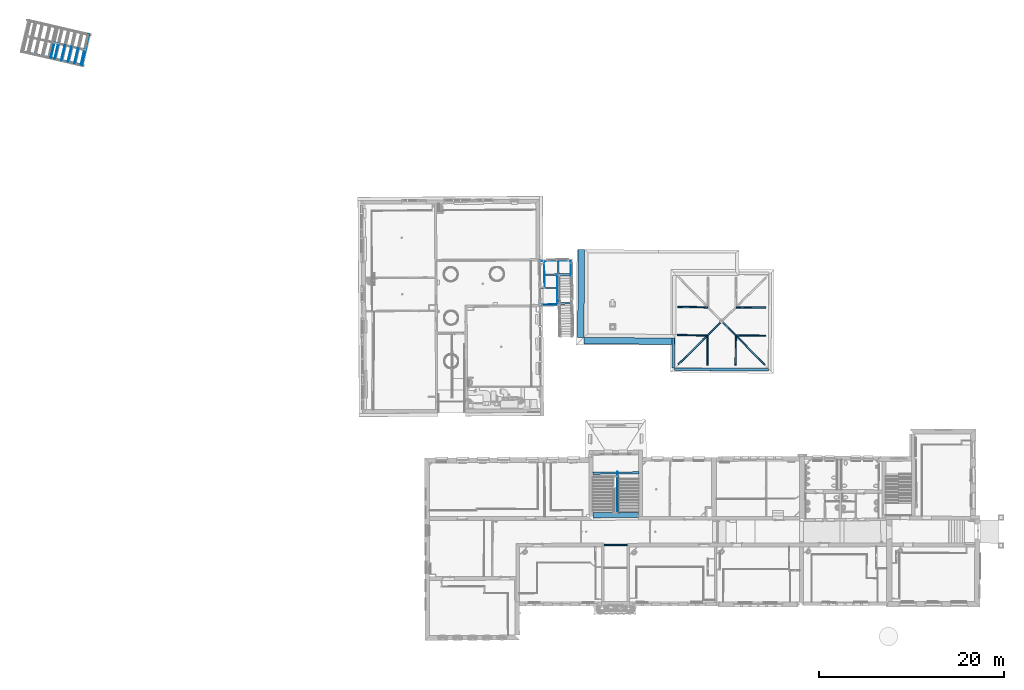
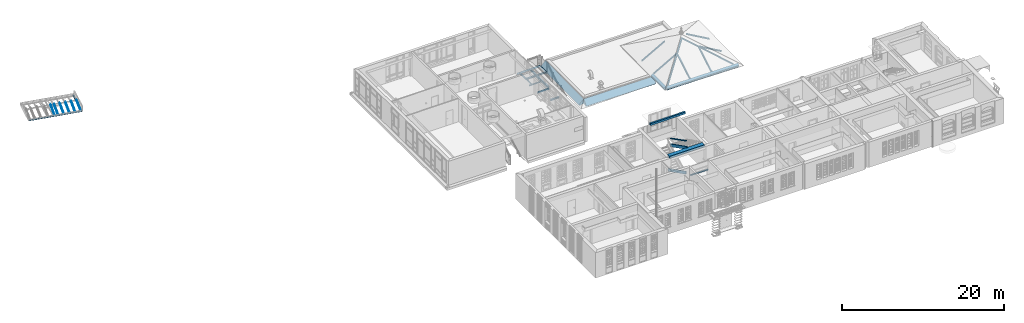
# One storey, part 5 of 158: 37 beams.
"""IFC2X3 building model written with IfcOpenShell, lengths in metres."""

from ifc_helpers import new_model, entity, si_unit, converted_unit, derived_unit, money_unit, direction, frame, frame_2d, origin_with_axes, origin_2d_with_axis, place, context, subcontext, project, spatial, polyline, rectangle, outline, extrude, clip, halfspace, material, type_object, element, save


model = new_model("IFC2X3")

# Units and contexts
model_context = context("Model", 3, precision=1e-05, world=origin_with_axes(), true_north=direction((0.0, 1.0)))
body_context = subcontext(model_context, "Body", "Model", "MODEL_VIEW")
ifc_project = project(units=[si_unit("LENGTHUNIT", "METRE"), si_unit("AREAUNIT", "SQUARE_METRE"), si_unit("VOLUMEUNIT", "CUBIC_METRE"), converted_unit("PLANEANGLEUNIT", "DEGREE", entity("IfcPlaneAngleMeasure", 0.0174532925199), si_unit("PLANEANGLEUNIT", "RADIAN"), dimensions=[0, 0, 0, 0, 0, 0, 0]), money_unit("EUR"), converted_unit("TIMEUNIT", "Year", entity("IfcTimeMeasure", 31556926.0), si_unit("TIMEUNIT", "SECOND"), dimensions=[0, 0, 1, 0, 0, 0, 0]), si_unit("MASSUNIT", "GRAM", prefix="KILO"), si_unit("THERMODYNAMICTEMPERATUREUNIT", "DEGREE_CELSIUS"), si_unit("LUMINOUSINTENSITYUNIT", "LUMEN"), si_unit("ENERGYUNIT", "JOULE", prefix="MEGA"), derived_unit("THERMALCONDUCTANCEUNIT", [(si_unit("POWERUNIT", "WATT"), 1), (si_unit("LENGTHUNIT", "METRE"), -1), (si_unit("THERMODYNAMICTEMPERATUREUNIT", "KELVIN"), -1)]), derived_unit("SPECIFICHEATCAPACITYUNIT", [(si_unit("ENERGYUNIT", "JOULE"), 1), (si_unit("MASSUNIT", "GRAM", prefix="KILO"), -1), (si_unit("THERMODYNAMICTEMPERATUREUNIT", "KELVIN"), -1)]), derived_unit("MASSDENSITYUNIT", [(si_unit("MASSUNIT", "GRAM", prefix="KILO"), 1), (si_unit("VOLUMEUNIT", "CUBIC_METRE"), -1)])], contexts=[model_context])

# Site, building, storey
site_placement = place(None, origin_with_axes())
site = spatial("IfcSite", under=ifc_project, at=site_placement, Name="Gelände", CompositionType="ELEMENT")
building_placement = place(site_placement, origin_with_axes())
building = spatial("IfcBuilding", under=site, at=building_placement, Name="Gebäude", CompositionType="ELEMENT")
storey_placement = place(building_placement, origin_with_axes())
storey = spatial("IfcBuildingStorey", under=building, at=storey_placement, Name="ERDGESCHOSS", CompositionType="ELEMENT", Elevation=0.0)

# Beams
ifc_material_1 = material(Name="Stahl verzinkt")
beam_type_1 = type_object("IfcBeamType", Name="HEB200 200 x 200", PredefinedType="LINTEL")
beam_1_placement = place(storey_placement, frame((-13.5839410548, 46.0040171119, 1.18054436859), z_axis=(0.0, 0.0, 1.0), x_axis=(0.99989609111, 0.0144155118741, 0.0)))
element("IfcBeam", 1, at=beam_1_placement, inside=storey, type_object=beam_type_1, material=ifc_material_1, Name="Unterzug-003", ObjectType="LINTEL", context=body_context, shape_type="SweptSolid", body=[
    extrude(outline(polyline([(0.0, 0.1), (-0.1, 0.1), (-0.1, 0.085), (-0.0045, 0.085), (-0.0045, -0.085), (-0.1, -0.085), (-0.1, -0.1), (0.1, -0.1), (0.1, -0.085), (0.0045, -0.085), (0.0045, 0.085), (0.1, 0.085), (0.1, 0.1), (0.0, 0.1)])), frame((0.0, 1.37754450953, 0.0), z_axis=(0.0, -1.0, 0.0), x_axis=(1.0, 0.0, 0.0)), (0.0, 0.0, 1.0), 1.37754450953),
])
beam_2_placement = place(storey_placement, frame((-15.0966435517, 45.8666600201, 1.18054436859), z_axis=(0.0, 0.0, 1.0), x_axis=(0.0114684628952, -0.999934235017, 0.0)))
element("IfcBeam", 2, at=beam_2_placement, inside=storey, type_object=beam_type_1, material=ifc_material_1, Name="Unterzug-003", ObjectType="LINTEL", context=body_context, shape_type="SweptSolid", body=[
    extrude(outline(polyline([(0.0, 0.1), (-0.1, 0.1), (-0.1, 0.085), (-0.0045, 0.085), (-0.0045, -0.085), (-0.1, -0.085), (-0.1, -0.1), (0.1, -0.1), (0.1, -0.085), (0.0045, -0.085), (0.0045, 0.085), (0.1, 0.085), (0.1, 0.1), (0.0, 0.1)])), frame((0.0, 2.86299160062, 0.0), z_axis=(0.0, -1.0, 0.0), x_axis=(1.0, 0.0, 0.0)), (0.0, 0.0, 1.0), 2.86299160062),
])
beam_3_placement = place(storey_placement, frame((-13.5387914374, 42.8723263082, 1.18054436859), z_axis=(0.0, 0.0, 1.0), x_axis=(0.99989609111, 0.0144155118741, 0.0)))
element("IfcBeam", 3, at=beam_3_placement, inside=storey, type_object=beam_type_1, material=ifc_material_1, Name="Unterzug-003", ObjectType="LINTEL", context=body_context, shape_type="SweptSolid", body=[
    extrude(outline(polyline([(0.0, 0.1), (-0.1, 0.1), (-0.1, 0.085), (-0.0045, 0.085), (-0.0045, -0.085), (-0.1, -0.085), (-0.1, -0.1), (0.1, -0.1), (0.1, -0.085), (0.0045, -0.085), (0.0045, 0.085), (0.1, 0.085), (0.1, 0.1), (0.0, 0.1)])), frame((0.0, 2.89177181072, 0.0), z_axis=(0.0, -1.0, 0.0), x_axis=(1.0, 0.0, 0.0)), (0.0, 0.0, 1.0), 2.89177181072),
])
beam_4_placement = place(storey_placement, frame((-13.4188583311, 42.7554936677, -0.680014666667), z_axis=(0.0, 0.0, 1.0), x_axis=(0.0322854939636, -0.999478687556, 0.0)))
element("IfcBeam", 4, at=beam_4_placement, inside=storey, type_object=beam_type_1, material=ifc_material_1, Name="Unterzug-003", ObjectType="LINTEL", context=body_context, shape_type="SweptSolid", body=[
    extrude(outline(polyline([(0.0, 0.1), (-0.1, 0.1), (-0.1, 0.085), (-0.0045, 0.085), (-0.0045, -0.085), (-0.1, -0.085), (-0.1, -0.1), (0.1, -0.1), (0.1, -0.085), (0.0045, -0.085), (0.0045, 0.085), (0.1, 0.085), (0.1, 0.1), (0.0, 0.1)])), frame((0.0, 1.28388078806, 0.0), z_axis=(0.0, -1.0, 0.0), x_axis=(1.0, 0.0, 0.0)), (0.0, 0.0, 1.0), 1.28388078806),
])
ifc_material_2 = material(Name="56_Metall, Stahl verzinkt")
beam_type_2 = type_object("IfcBeamType", Name="56_Metall, Stahl verzinkt 20 x 267", PredefinedType="LINTEL")
beam_5_placement = place(storey_placement, frame((-15.3598213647, 42.6179727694, 1.18134876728), z_axis=(0.0, 0.0, 1.0), x_axis=(0.014281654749, -0.999898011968, 0.0)))
element("IfcBeam", 5, at=beam_5_placement, inside=storey, type_object=beam_type_2, material=ifc_material_2, Name="Unterzug-004", ObjectType="LINTEL", context=body_context, shape_type="SweptSolid", body=[
    extrude(rectangle(XDim=0.26730286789, YDim=0.02, at=frame_2d((0.0, -0.01), x_axis=(1.0, 0.0))), frame((0.0, 0.0, 0.0), z_axis=(0.0, 1.0, 0.0), x_axis=(0.0, 0.0, 1.0)), (0.0, 0.0, 1.0), 1.67416167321),
])
beam_6_placement = place(storey_placement, frame((-15.0558837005, 44.472801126, 1.18134866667), z_axis=(0.0, 0.0, 1.0), x_axis=(0.999889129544, 0.0148905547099, 0.0)))
element("IfcBeam", 6, at=beam_6_placement, inside=storey, type_object=beam_type_2, material=ifc_material_2, Name="Unterzug-006", ObjectType="LINTEL", context=body_context, shape_type="SweptSolid", body=[
    extrude(rectangle(XDim=0.267302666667, YDim=0.02, at=frame_2d((0.0, -0.01), x_axis=(1.0, 0.0))), frame((0.0, 0.0, 0.0), z_axis=(0.0, 1.0, 0.0), x_axis=(0.0, 0.0, 1.0)), (0.0, 0.0, 1.0), 2.8836605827),
])
beam_7_placement = place(storey_placement, frame((-13.685830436, 42.6418825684, 1.18134876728), z_axis=(0.0, 0.0, 1.0), x_axis=(0.999899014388, 0.0142112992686, 0.0)))
element("IfcBeam", 7, at=beam_7_placement, inside=storey, type_object=beam_type_2, material=ifc_material_2, Name="Unterzug-007", ObjectType="LINTEL", context=body_context, shape_type="SweptSolid", body=[
    extrude(rectangle(XDim=0.26730286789, YDim=0.02, at=frame_2d((0.0, 0.01), x_axis=(1.0, 0.0))), frame((0.0, 0.0, 0.0), z_axis=(0.0, 1.0, 0.0), x_axis=(0.0, 0.0, 1.0)), (0.0, 0.0, 1.0), 3.14035998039),
])
beam_type_3 = type_object("IfcBeamType", Name="56_Metall, Stahl verzinkt 20 x 291", PredefinedType="LINTEL")
beam_8_placement = place(storey_placement, frame((-15.5208699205, 47.3490064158, 1.19296233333), z_axis=(0.0, 0.0, 1.0), x_axis=(0.016904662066, -0.999857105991, 0.0)))
element("IfcBeam", 8, at=beam_8_placement, inside=storey, type_object=beam_type_3, material=ifc_material_2, Name="Unterzug-005", ObjectType="LINTEL", context=body_context, shape_type="SweptSolid", body=[
    extrude(rectangle(XDim=0.29053, YDim=0.02, at=frame_2d((0.0, -0.01), x_axis=(1.0, 0.0))), frame((0.0, 0.0, 0.0), z_axis=(0.0, 1.0, 0.0), x_axis=(0.0, 0.0, 1.0)), (0.0, 0.0, 1.0), 3.28352654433),
])
beam_9_placement = place(storey_placement, frame((-12.2378125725, 45.7545889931, 1.19296233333), z_axis=(0.0, 0.0, 1.0), x_axis=(1.0, 0.0, 0.0)))
element("IfcBeam", 9, at=beam_9_placement, inside=storey, type_object=beam_type_3, material=ifc_material_2, Name="Unterzug-006", ObjectType="LINTEL", context=body_context, shape_type="SweptSolid", body=[
    extrude(rectangle(XDim=0.29053, YDim=0.02, at=frame_2d((0.0, 0.01), x_axis=(1.0, 0.0))), frame((0.0, 0.0, 0.0), z_axis=(0.0, 1.0, 0.0), x_axis=(0.0, 0.0, 1.0)), (0.0, 0.0, 1.0), 1.64992432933),
])
ifc_material_3 = material(Name="47_Holz, Bauholz")
beam_type_4 = type_object("IfcBeamType", Name="47_Holz, Bauholz 154 x 160", PredefinedType="LINTEL")
beam_10_placement = place(storey_placement, frame((8.89462559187, 42.3815478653, 1.07501837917), z_axis=(0.0, 0.0, 1.0), x_axis=(0.00891914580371, 0.999960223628, 0.0)))
element("IfcBeam", 10, at=beam_10_placement, inside=storey, type_object=beam_type_4, material=ifc_material_3, Name="Unterzug-010", ObjectType="LINTEL", context=body_context, shape_type="Clipping", body=[
    clip(clip(extrude(rectangle(XDim=0.16039239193, YDim=0.154044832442, at=frame_2d((-0.0801961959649, -0.0770224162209), x_axis=(1.0, 0.0))), frame((0.0, -0.112396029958, -0.0641183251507), z_axis=(0.0, 0.868602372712, 0.495509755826), x_axis=(0.0, -0.495509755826, 0.868602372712)), (0.0, 0.0, 1.0), 3.9697436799), halfspace(frame((0.0, 0.0, 0.0), z_axis=(0.0, 1.0, 0.0), x_axis=(0.0, 0.0, 1.0)), True)), halfspace(frame((0.0, 3.2233367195, 0.0), z_axis=(0.0, -1.0, 0.0), x_axis=(0.0, 0.0, -1.0)), True)),
])
beam_11_placement = place(storey_placement, frame((8.87576846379, 39.338001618, 1.07435188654), z_axis=(0.0, 0.0, 1.0), x_axis=(0.00619565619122, 0.999980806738, 0.0)))
element("IfcBeam", 11, at=beam_11_placement, inside=storey, type_object=beam_type_4, material=ifc_material_3, Name="Unterzug-012", ObjectType="LINTEL", context=body_context, shape_type="Clipping", body=[
    clip(clip(extrude(rectangle(XDim=0.16039239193, YDim=0.154044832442, at=frame_2d((-0.0801961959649, -0.0770224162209), x_axis=(1.0, 0.0))), frame((0.0, -0.112142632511, -0.0637828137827), z_axis=(0.0, 0.86923870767, 0.494392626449), x_axis=(0.0, -0.494392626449, 0.86923870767)), (0.0, 0.0, 1.0), 3.91522685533), halfspace(frame((0.0, 0.0, 0.0), z_axis=(0.0, 1.0, 0.0), x_axis=(0.0, 0.0, 1.0)), True)), halfspace(frame((0.0, 3.17898146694, 0.0), z_axis=(0.0, -1.0, 0.0), x_axis=(0.0, 0.0, -1.0)), True)),
])
beam_12_placement = place(storey_placement, frame((4.07727617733, 40.774147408, 3.75739027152), z_axis=(0.0, 0.0, 1.0), x_axis=(-0.710529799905, -0.703667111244, 0.0)))
element("IfcBeam", 12, at=beam_12_placement, inside=storey, type_object=beam_type_4, material=ifc_material_3, Name="Unterzug-013", ObjectType="LINTEL", context=body_context, shape_type="Clipping", body=[
    clip(clip(extrude(rectangle(XDim=0.16039239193, YDim=0.154044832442, at=frame_2d((-0.0801961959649, -0.0770224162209), x_axis=(1.0, 0.0))), frame((0.0, -0.0858458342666, 0.0351000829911), z_axis=(0.0, 0.925617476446, -0.378460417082), x_axis=(0.0, 0.378460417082, 0.925617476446)), (0.0, 0.0, 1.0), 7.32631976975), halfspace(frame((0.0, 0.0, 0.0), z_axis=(0.0, 1.0, 0.0), x_axis=(0.0, 0.0, 1.0)), True)), halfspace(frame((0.0, 6.60967794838, 0.0), z_axis=(0.0, -1.0, 0.0), x_axis=(0.0, 0.0, -1.0)), True)),
])
beam_13_placement = place(storey_placement, frame((5.56994109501, 39.2669249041, 2.90802005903), z_axis=(0.0, 0.0, 1.0), x_axis=(-0.999989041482, 0.00468155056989, 0.0)))
element("IfcBeam", 13, at=beam_13_placement, inside=storey, type_object=beam_type_4, material=ifc_material_3, Name="Unterzug-014", ObjectType="LINTEL", context=body_context, shape_type="Clipping", body=[
    clip(clip(extrude(rectangle(XDim=0.16039239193, YDim=0.154044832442, at=frame_2d((-0.0801961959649, -0.0770224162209), x_axis=(1.0, 0.0))), frame((0.0, -0.11253050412, 0.0642968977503), z_axis=(0.0, 0.868263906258, -0.496102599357), x_axis=(0.0, 0.496102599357, 0.868263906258)), (0.0, 0.0, 1.0), 3.94412724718), halfspace(frame((0.0, 0.0, 0.0), z_axis=(0.0, 1.0, 0.0), x_axis=(0.0, 0.0, 1.0)), True)), halfspace(frame((0.0, 3.19948232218, 0.0), z_axis=(0.0, -1.0, 0.0), x_axis=(0.0, 0.0, -1.0)), True)),
])
beam_14_placement = place(storey_placement, frame((2.52585529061, 39.2718066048, 2.90094903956), z_axis=(0.0, 0.0, 1.0), x_axis=(-0.999974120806, 0.00719428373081, 0.0)))
element("IfcBeam", 14, at=beam_14_placement, inside=storey, type_object=beam_type_4, material=ifc_material_3, Name="Unterzug-015", ObjectType="LINTEL", context=body_context, shape_type="Clipping", body=[
    clip(clip(extrude(rectangle(XDim=0.16039239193, YDim=0.154044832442, at=frame_2d((-0.0801961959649, -0.0770224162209), x_axis=(1.0, 0.0))), frame((0.0, -0.112226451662, 0.0638936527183), z_axis=(0.0, 0.86902843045, -0.494762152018), x_axis=(0.0, 0.494762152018, 0.86902843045)), (0.0, 0.0, 1.0), 3.93026870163), halfspace(frame((0.0, 0.0, 0.0), z_axis=(0.0, 1.0, 0.0), x_axis=(0.0, 0.0, 1.0)), True)), halfspace(frame((0.0, 3.1910623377, 0.0), z_axis=(0.0, -1.0, 0.0), x_axis=(0.0, 0.0, -1.0)), True)),
])
beam_15_placement = place(storey_placement, frame((4.08095420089, 40.8701505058, 3.76028907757), z_axis=(0.0, 0.0, 1.0), x_axis=(-0.70190155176, 0.712273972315, 0.0)))
element("IfcBeam", 15, at=beam_15_placement, inside=storey, type_object=beam_type_4, material=ifc_material_3, Name="Unterzug-015", ObjectType="LINTEL", context=body_context, shape_type="Clipping", body=[
    clip(clip(extrude(rectangle(XDim=0.16039239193, YDim=0.154044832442, at=frame_2d((-0.0801961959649, -0.0770224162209), x_axis=(1.0, 0.0))), frame((0.0, -0.0855648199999, 0.0348516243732), z_axis=(0.0, 0.926123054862, -0.37722153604), x_axis=(0.0, 0.37722153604, 0.926123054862)), (0.0, 0.0, 1.0), 7.35853450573), halfspace(frame((0.0, 0.0, 0.0), z_axis=(0.0, 1.0, 0.0), x_axis=(0.0, 0.0, 1.0)), True)), halfspace(frame((0.0, 6.64377881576, 0.0), z_axis=(0.0, -1.0, 0.0), x_axis=(0.0, 0.0, -1.0)), True)),
])
beam_16_placement = place(storey_placement, frame((2.55813733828, 39.3762329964, 2.90610068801), z_axis=(0.0, 0.0, 1.0), x_axis=(0.0093724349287, 0.999956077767, 0.0)))
element("IfcBeam", 16, at=beam_16_placement, inside=storey, type_object=beam_type_4, material=ifc_material_3, Name="Unterzug-016", ObjectType="LINTEL", context=body_context, shape_type="Clipping", body=[
    clip(clip(extrude(rectangle(XDim=0.16039239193, YDim=0.154044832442, at=frame_2d((-0.0801961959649, -0.0770224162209), x_axis=(1.0, 0.0))), frame((0.0, -0.112877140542, 0.064758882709), z_axis=(0.0, 0.867388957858, -0.497630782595), x_axis=(0.0, 0.497630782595, 0.867388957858)), (0.0, 0.0, 1.0), 3.99021152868), halfspace(frame((0.0, 0.0, 0.0), z_axis=(0.0, 1.0, 0.0), x_axis=(0.0, 0.0, 1.0)), True)), halfspace(frame((0.0, 3.23531113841, 0.0), z_axis=(0.0, -1.0, 0.0), x_axis=(0.0, 0.0, -1.0)), True)),
])
beam_17_placement = place(storey_placement, frame((2.60185949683, 42.4161424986, 2.91707397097), z_axis=(0.0, 0.0, 1.0), x_axis=(0.0121838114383, 0.999925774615, 0.0)))
element("IfcBeam", 17, at=beam_17_placement, inside=storey, type_object=beam_type_4, material=ifc_material_3, Name="Unterzug-017", ObjectType="LINTEL", context=body_context, shape_type="Clipping", body=[
    clip(clip(extrude(rectangle(XDim=0.16039239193, YDim=0.154044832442, at=frame_2d((-0.0801961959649, -0.0770224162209), x_axis=(1.0, 0.0))), frame((0.0, -0.112465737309, 0.0642108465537), z_axis=(0.0, 0.868426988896, -0.495817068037), x_axis=(0.0, 0.495817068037, 0.868426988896)), (0.0, 0.0, 1.0), 4.00204552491), halfspace(frame((0.0, 0.0, 0.0), z_axis=(0.0, 1.0, 0.0), x_axis=(0.0, 0.0, 1.0)), True)), halfspace(frame((0.0, 3.25055287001, 0.0), z_axis=(0.0, -1.0, 0.0), x_axis=(0.0, 0.0, -1.0)), True)),
])
ifc_material_4 = material(Name="05_ALLGEMEIN - TRAGENDE BAUTEILE")
beam_type_5 = type_object("IfcBeamType", Name="sims kantine 289 x 434", PredefinedType="LINTEL")
beam_18_placement = place(storey_placement, frame((-0.97514614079, 39.0078292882, 0.825955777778), z_axis=(0.0, 0.0, 1.0), x_axis=(-0.999988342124, 0.00482862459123, 0.0)))
element("IfcBeam", 18, at=beam_18_placement, inside=storey, type_object=beam_type_5, material=ifc_material_4, Name="Unterzug-006", ObjectType="LINTEL", context=body_context, shape_type="SweptSolid", body=[
    extrude(outline(polyline([(0.0, 0.434190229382), (0.0, 0.0), (0.26806092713, 0.0), (0.271404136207, 0.111285), (0.288909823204, 0.116581), (0.288149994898, 0.268944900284), (0.0, 0.434190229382)])), frame((0.0, 3.22323823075, 0.0), z_axis=(0.0, -1.0, 0.0), x_axis=(1.0, 0.0, 0.0)), (0.0, 0.0, 1.0), 3.22323823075),
])
beam_19_placement = place(storey_placement, frame((-0.990709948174, 35.7846286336, 0.825955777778), z_axis=(0.0, 0.0, 1.0), x_axis=(-0.00713960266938, -0.999974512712, 0.0)))
element("IfcBeam", 19, at=beam_19_placement, inside=storey, type_object=beam_type_5, material=ifc_material_4, Name="Unterzug-006", ObjectType="LINTEL", context=body_context, shape_type="SweptSolid", body=[
    extrude(outline(polyline([(0.0, 0.434190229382), (0.0, 0.0), (0.26806092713, 0.0), (0.271404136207, 0.111285), (0.288909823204, 0.116581), (0.288149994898, 0.268944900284), (0.0, 0.434190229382)])), frame((0.0, 10.17225402, 0.0), z_axis=(0.0, -1.0, 0.0), x_axis=(1.0, 0.0, 0.0)), (0.0, 0.0, 1.0), 10.17225402),
])
beam_type_6 = type_object("IfcBeamType", Name="U200 75 x 200", PredefinedType="LINTEL")
beam_20_placement = place(storey_placement, frame((-15.2465711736, 42.6770907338, 1.19929361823), z_axis=(0.0, 0.0, 1.0), x_axis=(0.00788036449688, -0.999968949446, 0.0)))
element("IfcBeam", 20, at=beam_20_placement, inside=storey, type_object=beam_type_6, material=ifc_material_1, Name="Unterzug-007", ObjectType="LINTEL", context=body_context, shape_type="Clipping", body=[
    clip(clip(extrude(outline(polyline([(-0.0375, -0.1), (0.0375, -0.1), (0.0375, -0.0885), (-0.029, -0.0885), (-0.029, 0.0885), (0.0375, 0.0885), (0.0375, 0.1), (-0.0375, 0.1), (-0.0375, -0.1)])), frame((0.0, 1.55114241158, 0.00370266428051), z_axis=(0.0, 0.999997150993, 0.00238704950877), x_axis=(-1.0, 0.0, 0.0)), (0.0, 0.0, -1.0), 1.55182199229), halfspace(frame((0.0, 0.0, 0.0), z_axis=(0.0, 1.0, 0.0), x_axis=(0.0, 0.0, 1.0)), True)), halfspace(frame((0.0, 1.55046725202, 0.0), z_axis=(0.0, -1.0, 0.0), x_axis=(0.0, 0.0, -1.0)), True)),
])
beam_21_placement = place(storey_placement, frame((-15.4993129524, 44.4332862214, 1.19872267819), z_axis=(0.0, 0.0, 1.0), x_axis=(0.00788036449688, -0.999968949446, 0.0)))
element("IfcBeam", 21, at=beam_21_placement, inside=storey, type_object=beam_type_6, material=ifc_material_1, Name="Unterzug-007", ObjectType="LINTEL", context=body_context, shape_type="Clipping", body=[
    clip(clip(extrude(outline(polyline([(-0.0375, -0.1), (0.0375, -0.1), (0.0375, -0.0885), (-0.029, -0.0885), (-0.029, 0.0885), (0.0375, 0.0885), (0.0375, 0.1), (-0.0375, 0.1), (-0.0375, -0.1)])), frame((0.0, 1.78944587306, 0.00427150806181), z_axis=(0.0, -0.999997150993, -0.00238704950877), x_axis=(1.0, 0.0, 0.0)), (0.0, 0.0, 1.0), 1.7901261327), halfspace(frame((0.0, 0.0, 0.0), z_axis=(0.0, 1.0, 0.0), x_axis=(0.0, 0.0, 1.0)), True)), halfspace(frame((0.0, 1.7887707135, 0.0), z_axis=(0.0, -1.0, 0.0), x_axis=(0.0, 0.0, -1.0)), True)),
])
ifc_material_5 = material(Name="01_ALLGEMEIN - BAUTEIL")
beam_type_7 = type_object("IfcBeamType", Name="sims kant. 700 x 863", PredefinedType="LINTEL")
beam_22_placement = place(storey_placement, frame((-0.945144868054, 39.0080204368, 0.0831145), z_axis=(0.0, 0.0, 1.0), x_axis=(0.0082428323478, 0.99996602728, 0.0)))
element("IfcBeam", 22, at=beam_22_placement, inside=storey, type_object=beam_type_7, material=ifc_material_5, Name="Unterzug-008", ObjectType="LINTEL", context=body_context, shape_type="SweptSolid", body=[
    extrude(outline(polyline([(0.0, 0.727742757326), (-0.700206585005, 0.0441495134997), (-0.528845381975, -0.13528), (-0.380181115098, 0.0), (0.0, 0.0), (0.0, 0.727742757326)])), frame((0.0, 9.85188916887, 0.0), z_axis=(0.0, -1.0, 0.0), x_axis=(1.0, 0.0, 0.0)), (0.0, 0.0, 1.0), 9.85188916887),
])
beam_23_placement = place(storey_placement, frame((-10.7966993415, 39.0892279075, 0.0831145), z_axis=(0.0, 0.0, 1.0), x_axis=(0.999984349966, -0.00559462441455, 0.0)))
element("IfcBeam", 23, at=beam_23_placement, inside=storey, type_object=beam_type_7, material=ifc_material_5, Name="Unterzug-008", ObjectType="LINTEL", context=body_context, shape_type="SweptSolid", body=[
    extrude(outline(polyline([(0.0, 0.727742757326), (-0.700206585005, 0.0441495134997), (-0.528845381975, -0.13528), (-0.380181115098, 0.0), (0.0, 0.0), (0.0, 0.727742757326)])), frame((0.0, 9.51505866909, 0.0), z_axis=(0.0, -1.0, 0.0), x_axis=(1.0, 0.0, 0.0)), (0.0, 0.0, 1.0), 9.51505866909),
])
beam_type_8 = type_object("IfcBeamType", Name="05_ALLGEMEIN - TRAGENDE BAUTEILE 170 x 390", PredefinedType="LINTEL")
beam_24_placement = place(storey_placement, frame((-7.1159791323, 20.0179742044, 3.7246809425), z_axis=(0.0, 0.0, 1.0), x_axis=(0.999979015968, 0.00647824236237, 0.0)))
element("IfcBeam", 24, at=beam_24_placement, inside=storey, type_object=beam_type_8, material=ifc_material_4, Name="Unterzug-020", ObjectType="LINTEL", context=body_context, shape_type="Clipping", body=[
    clip(clip(extrude(rectangle(XDim=0.389549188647, YDim=0.17, at=origin_2d_with_axis()), frame((0.0, -0.247780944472, 0.124777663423), z_axis=(0.0, 0.893144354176, -0.449770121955), x_axis=(0.0, 0.449770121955, 0.893144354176)), (0.0, 0.0, 1.0), 5.09756852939), halfspace(frame((0.0, 0.0, 0.0), z_axis=(0.0, 1.0, 0.0), x_axis=(0.0, 0.0, 1.0)), True)), halfspace(frame((0.0, 4.05730266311, 0.0), z_axis=(0.0, -1.0, 0.0), x_axis=(0.0, 0.0, -1.0)), True)),
])
beam_type_9 = type_object("IfcBeamType", Name="05_ALLGEMEIN - TRAGENDE BAUTEILE 102 x 390", PredefinedType="LINTEL")
beam_25_placement = place(storey_placement, frame((-7.17762634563, 20.1009591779, -0.0497198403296), z_axis=(0.0, 0.0, 1.0), x_axis=(0.999999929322, -0.000375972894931, 0.0)))
element("IfcBeam", 25, at=beam_25_placement, inside=storey, type_object=beam_type_9, material=ifc_material_4, Name="Unterzug-020", ObjectType="LINTEL", context=body_context, shape_type="Clipping", body=[
    clip(clip(extrude(rectangle(XDim=0.389549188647, YDim=0.101778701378, at=origin_2d_with_axis()), frame((0.0, -0.248490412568, 0.125584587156), z_axis=(0.0, 0.892494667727, -0.451057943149), x_axis=(0.0, 0.451057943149, 0.892494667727)), (0.0, 0.0, 1.0), 5.49740211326), halfspace(frame((0.0, 0.0, 0.0), z_axis=(0.0, 1.0, 0.0), x_axis=(0.0, 0.0, 1.0)), True)), halfspace(frame((0.0, 4.40942124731, 0.0), z_axis=(0.0, -1.0, 0.0), x_axis=(0.0, 0.0, -1.0)), True)),
])
beam_type_10 = type_object("IfcBeamType", Name="05_ALLGEMEIN - TRAGENDE BAUTEILE 145 x 74", PredefinedType="LINTEL")
beam_26_placement = place(storey_placement, frame((-7.24760697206, 23.9457258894, 2.73869134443), z_axis=(0.0, 0.0, 1.0), x_axis=(-0.999979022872, -0.00647717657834, 0.0)))
element("IfcBeam", 26, at=beam_26_placement, inside=storey, type_object=beam_type_10, material=ifc_material_4, Name="Unterzug-021", ObjectType="LINTEL", context=body_context, shape_type="Clipping", body=[
    clip(clip(extrude(rectangle(XDim=0.0742812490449, YDim=0.145, at=frame_2d((0.0371406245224, -0.0725), x_axis=(1.0, 0.0))), frame((0.0, -0.0476716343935, -0.0242771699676), z_axis=(0.0, 0.891102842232, 0.453801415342), x_axis=(0.0, -0.453801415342, 0.891102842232)), (0.0, 0.0, 1.0), 4.38455727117), halfspace(frame((0.0, 0.0, 0.0), z_axis=(0.0, 1.0, 0.0), x_axis=(0.0, 0.0, 1.0)), True)), halfspace(frame((0.0, 3.81174817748, 0.0), z_axis=(0.0, -1.0, 0.0), x_axis=(0.0, 0.0, -1.0)), True)),
])
beam_type_11 = type_object("IfcBeamType", Name="47_Holz, Bauholz 145 x 80", PredefinedType="LINTEL")
beam_27_placement = place(storey_placement, frame((-6.1430048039, 16.6530985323, 2.26388633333), z_axis=(0.0, 0.0, 1.0), x_axis=(-0.000337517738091, 0.999999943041, 0.0)))
element("IfcBeam", 27, at=beam_27_placement, inside=storey, type_object=beam_type_11, material=ifc_material_3, Name="Unterzug-021", ObjectType="LINTEL", context=body_context, shape_type="SweptSolid", body=[
    extrude(rectangle(XDim=0.08, YDim=0.145, at=frame_2d((-0.04, -0.0725), x_axis=(1.0, 0.0))), frame((0.0, 0.0, 0.0), z_axis=(0.0, 1.0, 0.0), x_axis=(0.0, 0.0, 1.0)), (0.0, 0.0, 1.0), 2.47309560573),
])
beam_type_12 = type_object("IfcBeamType", Name="05_ALLGEMEIN - TRAGENDE BAUTEILE 566 x 343", PredefinedType="LINTEL")
beam_28_placement = place(storey_placement, frame((-4.87501208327, 19.5613901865, 3.35149033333), z_axis=(0.0, 0.0, 1.0), x_axis=(-0.00537236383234, 0.999985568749, 0.0)))
element("IfcBeam", 28, at=beam_28_placement, inside=storey, type_object=beam_type_12, material=ifc_material_4, Name="Unterzug-021", ObjectType="LINTEL", context=body_context, shape_type="SweptSolid", body=[
    extrude(rectangle(XDim=0.343086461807, YDim=0.566218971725, at=frame_2d((0.171543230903, 0.283109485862), x_axis=(1.0, 0.0))), frame((0.0, 0.0, 0.0), z_axis=(0.0, 1.0, 0.0), x_axis=(0.0, 0.0, 1.0)), (0.0, 0.0, 1.0), 4.96624824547),
])
beam_type_13 = type_object("IfcBeamType", Name="05_ALLGEMEIN - TRAGENDE BAUTEILE 241 x 300", PredefinedType="LINTEL")
beam_29_placement = place(storey_placement, frame((-9.85341877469, 24.2457397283, 5.44042633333), z_axis=(0.0, 0.0, 1.0), x_axis=(0.00871616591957, -0.999962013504, 0.0)))
element("IfcBeam", 29, at=beam_29_placement, inside=storey, type_object=beam_type_13, material=ifc_material_4, Name="Unterzug-022", ObjectType="LINTEL", context=body_context, shape_type="SweptSolid", body=[
    extrude(rectangle(XDim=0.299573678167, YDim=0.240856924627, at=frame_2d((0.149786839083, -0.120428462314), x_axis=(1.0, 0.0))), frame((0.0, 0.0, 0.0), z_axis=(0.0, 1.0, 0.0), x_axis=(0.0, 0.0, 1.0)), (0.0, 0.0, 1.0), 4.9934276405),
])
beam_type_14 = type_object("IfcBeamType", Name="05_ALLGEMEIN - TRAGENDE BAUTEILE 100 x 120", PredefinedType="LINTEL")
beam_30_placement = place(storey_placement, frame((-65.2572922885, 68.6180532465, 0.1726385), z_axis=(0.0, 0.0, 1.0), x_axis=(0.974325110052, -0.225145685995, 0.0)))
element("IfcBeam", 30, at=beam_30_placement, inside=storey, type_object=beam_type_14, material=ifc_material_4, Name="Unterzug-068", ObjectType="LINTEL", context=body_context, shape_type="Clipping", body=[
    clip(clip(extrude(rectangle(XDim=0.12, YDim=0.1, at=frame_2d((0.06, 0.05), x_axis=(1.0, 0.0))), frame((0.0, -0.000350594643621, 7.24294581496e-07), z_axis=(0.0, 0.999997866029, -0.0020658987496), x_axis=(0.0, 0.0020658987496, 0.999997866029)), (0.0, 0.0, 1.0), 3.37515091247), halfspace(frame((0.0, 0.0, 0.0), z_axis=(0.0, 1.0, 0.0), x_axis=(0.0, 0.0, 1.0)), True)), halfspace(frame((0.0, 3.37444252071, 0.0), z_axis=(0.0, -1.0, 0.0), x_axis=(0.0, 0.0, -1.0)), True)),
])
beam_type_15 = type_object("IfcBeamType", Name="05_ALLGEMEIN - TRAGENDE BAUTEILE 80 x 98", PredefinedType="LINTEL")
beam_31_placement = place(storey_placement, frame((-68.1521975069, 70.9867712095, 0.677158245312), z_axis=(0.0, 0.0, 1.0), x_axis=(-0.972546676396, 0.23270789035, 0.0)))
element("IfcBeam", 31, at=beam_31_placement, inside=storey, type_object=beam_type_15, material=ifc_material_4, Name="Unterzug-070", ObjectType="LINTEL", context=body_context, shape_type="Clipping", body=[
    clip(clip(extrude(rectangle(XDim=0.0981735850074, YDim=0.0799267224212, at=frame_2d((0.0490867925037, 0.0399633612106), x_axis=(1.0, 0.0))), frame((0.0, -0.0315097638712, 0.00734283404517), z_axis=(0.0, 0.973905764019, -0.226952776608), x_axis=(0.0, 0.226952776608, 0.973905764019)), (0.0, 0.0, 1.0), 1.78344929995), halfspace(frame((0.0, 0.0, 0.0), z_axis=(0.0, 1.0, 0.0), x_axis=(0.0, 0.0, 1.0)), True)), halfspace(frame((0.0, 1.67389202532, 0.0), z_axis=(0.0, -1.0, 0.0), x_axis=(0.0, 0.0, -1.0)), True)),
])
beam_32_placement = place(storey_placement, frame((-67.7968723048, 70.8934602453, 0.664521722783), z_axis=(0.0, 0.0, 1.0), x_axis=(-0.972652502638, 0.232265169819, 0.0)))
element("IfcBeam", 32, at=beam_32_placement, inside=storey, type_object=beam_type_15, material=ifc_material_4, Name="Unterzug-074", ObjectType="LINTEL", context=body_context, shape_type="Clipping", body=[
    clip(clip(extrude(rectangle(XDim=0.0981735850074, YDim=0.0799267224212, at=frame_2d((0.0490867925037, -0.0399633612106), x_axis=(1.0, 0.0))), frame((0.0, -0.0302652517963, 0.00676006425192), z_axis=(0.0, 0.975951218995, -0.21798903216), x_axis=(0.0, 0.21798903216, 0.975951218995)), (0.0, 0.0, 1.0), 1.76559658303), halfspace(frame((0.0, 0.0, 0.0), z_axis=(0.0, 1.0, 0.0), x_axis=(0.0, 0.0, 1.0)), True)), halfspace(frame((0.0, 1.66260563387, 0.0), z_axis=(0.0, -1.0, 0.0), x_axis=(0.0, 0.0, -1.0)), True)),
])
beam_33_placement = place(storey_placement, frame((-67.0847939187, 70.7329016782, 0.664521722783), z_axis=(0.0, 0.0, 1.0), x_axis=(-0.972652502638, 0.232265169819, 0.0)))
element("IfcBeam", 33, at=beam_33_placement, inside=storey, type_object=beam_type_15, material=ifc_material_4, Name="Unterzug-074", ObjectType="LINTEL", context=body_context, shape_type="Clipping", body=[
    clip(clip(extrude(rectangle(XDim=0.0981735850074, YDim=0.0799267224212, at=frame_2d((0.0490867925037, -0.0399633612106), x_axis=(1.0, 0.0))), frame((0.0, -0.0302652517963, 0.00676006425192), z_axis=(0.0, 0.975951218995, -0.21798903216), x_axis=(0.0, 0.21798903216, 0.975951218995)), (0.0, 0.0, 1.0), 1.76466440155), halfspace(frame((0.0, 0.0, 0.0), z_axis=(0.0, 1.0, 0.0), x_axis=(0.0, 0.0, 1.0)), True)), halfspace(frame((0.0, 1.66169587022, 0.0), z_axis=(0.0, -1.0, 0.0), x_axis=(0.0, 0.0, -1.0)), True)),
])
beam_34_placement = place(storey_placement, frame((-66.3727155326, 70.572343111, 0.664521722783), z_axis=(0.0, 0.0, 1.0), x_axis=(-0.972652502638, 0.232265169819, 0.0)))
element("IfcBeam", 34, at=beam_34_placement, inside=storey, type_object=beam_type_15, material=ifc_material_4, Name="Unterzug-074", ObjectType="LINTEL", context=body_context, shape_type="Clipping", body=[
    clip(clip(extrude(rectangle(XDim=0.0981735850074, YDim=0.0799267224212, at=frame_2d((0.0490867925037, -0.0399633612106), x_axis=(1.0, 0.0))), frame((0.0, -0.0302652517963, 0.00676006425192), z_axis=(0.0, 0.975951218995, -0.21798903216), x_axis=(0.0, 0.21798903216, 0.975951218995)), (0.0, 0.0, 1.0), 1.76559658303), halfspace(frame((0.0, 0.0, 0.0), z_axis=(0.0, 1.0, 0.0), x_axis=(0.0, 0.0, 1.0)), True)), halfspace(frame((0.0, 1.66260563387, 0.0), z_axis=(0.0, -1.0, 0.0), x_axis=(0.0, 0.0, -1.0)), True)),
])
beam_35_placement = place(storey_placement, frame((-66.0468025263, 68.7946470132, 0.285061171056), z_axis=(0.0, 0.0, 1.0), x_axis=(0.97127438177, -0.237962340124, 0.0)))
element("IfcBeam", 35, at=beam_35_placement, inside=storey, type_object=beam_type_15, material=ifc_material_4, Name="Unterzug-075", ObjectType="LINTEL", context=body_context, shape_type="Clipping", body=[
    clip(clip(extrude(rectangle(XDim=0.0981735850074, YDim=0.0799267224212, at=frame_2d((0.0490867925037, 0.0399633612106), x_axis=(1.0, 0.0))), frame((0.0, -0.0311328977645, -0.00716361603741), z_axis=(0.0, 0.974534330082, 0.224238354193), x_axis=(0.0, -0.224238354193, 0.974534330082)), (0.0, 0.0, 1.0), 1.76581225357), halfspace(frame((0.0, 0.0, 0.0), z_axis=(0.0, 1.0, 0.0), x_axis=(0.0, 0.0, 1.0)), True)), halfspace(frame((0.0, 1.65857886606, 0.0), z_axis=(0.0, -1.0, 0.0), x_axis=(0.0, 0.0, -1.0)), True)),
])
beam_36_placement = place(storey_placement, frame((-65.3323894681, 68.6330941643, 0.288091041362), z_axis=(0.0, 0.0, 1.0), x_axis=(0.975084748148, -0.221832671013, 0.0)))
element("IfcBeam", 36, at=beam_36_placement, inside=storey, type_object=beam_type_15, material=ifc_material_4, Name="Unterzug-078", ObjectType="LINTEL", context=body_context, shape_type="Clipping", body=[
    clip(clip(extrude(rectangle(XDim=0.0981735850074, YDim=0.0799267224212, at=frame_2d((0.0490867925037, 0.0399633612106), x_axis=(1.0, 0.0))), frame((0.0, -0.0313720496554, -0.00727706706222), z_axis=(0.0, 0.974136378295, 0.225960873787), x_axis=(0.0, -0.225960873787, 0.974136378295)), (0.0, 0.0, 1.0), 1.7601644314), halfspace(frame((0.0, 0.0, 0.0), z_axis=(0.0, 1.0, 0.0), x_axis=(0.0, 0.0, 1.0)), True)), halfspace(frame((0.0, 1.6518961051, 0.0), z_axis=(0.0, -1.0, 0.0), x_axis=(0.0, 0.0, -1.0)), True)),
])
beam_37_placement = place(storey_placement, frame((-65.1421822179, 68.5900819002, 0.182367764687), z_axis=(0.0, 0.0, 1.0), x_axis=(0.220564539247, 0.975372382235, 0.0)))
element("IfcBeam", 37, at=beam_37_placement, inside=storey, type_object=beam_type_15, material=ifc_material_4, Name="Unterzug-080", ObjectType="LINTEL", context=body_context, shape_type="Clipping", body=[
    clip(clip(extrude(rectangle(XDim=0.0981735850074, YDim=0.0799267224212, at=frame_2d((-0.0490867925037, -0.0399633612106), x_axis=(1.0, 0.0))), frame((0.0, -0.000530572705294, -2.02760489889e-06), z_axis=(0.0, 0.999992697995, 0.00382151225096), x_axis=(0.0, -0.00382151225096, 0.999992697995)), (0.0, 0.0, 1.0), 6.79998958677), halfspace(frame((0.0, 0.0, 0.0), z_axis=(0.0, 1.0, 0.0), x_axis=(0.0, 0.0, 1.0)), True)), halfspace(frame((0.0, 6.7988787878, 0.0), z_axis=(0.0, -1.0, 0.0), x_axis=(0.0, 0.0, -1.0)), True)),
])

save(model, "model.ifc")
